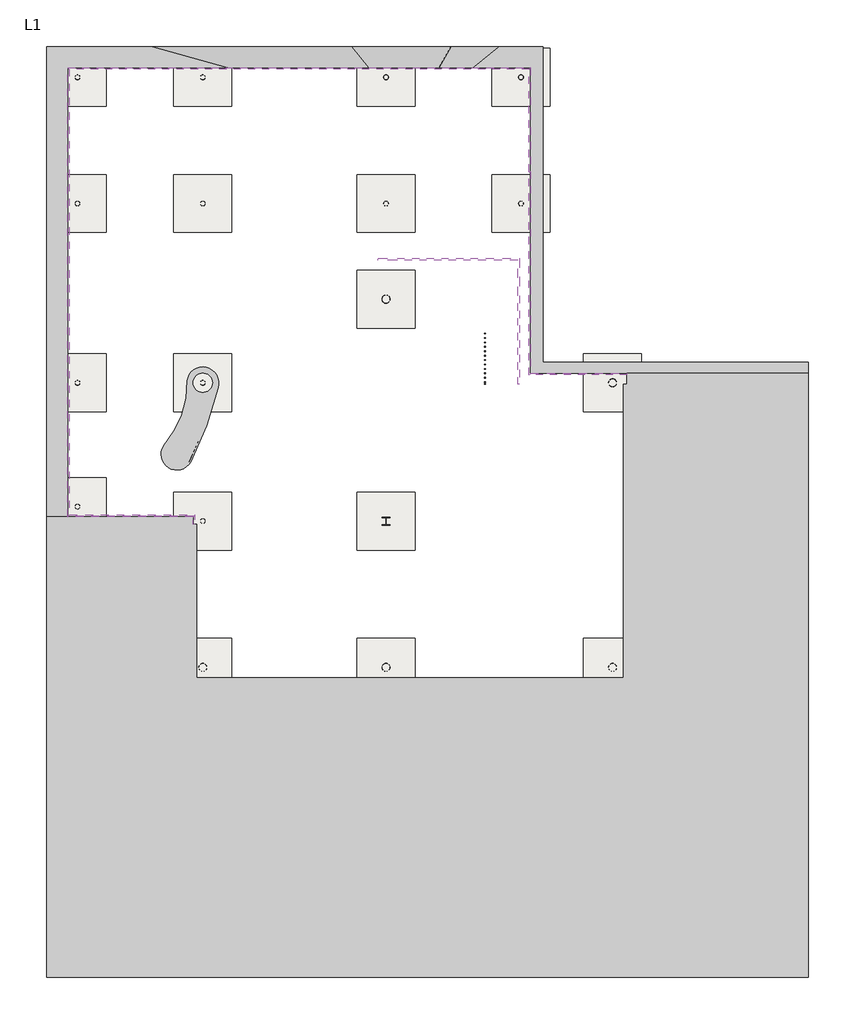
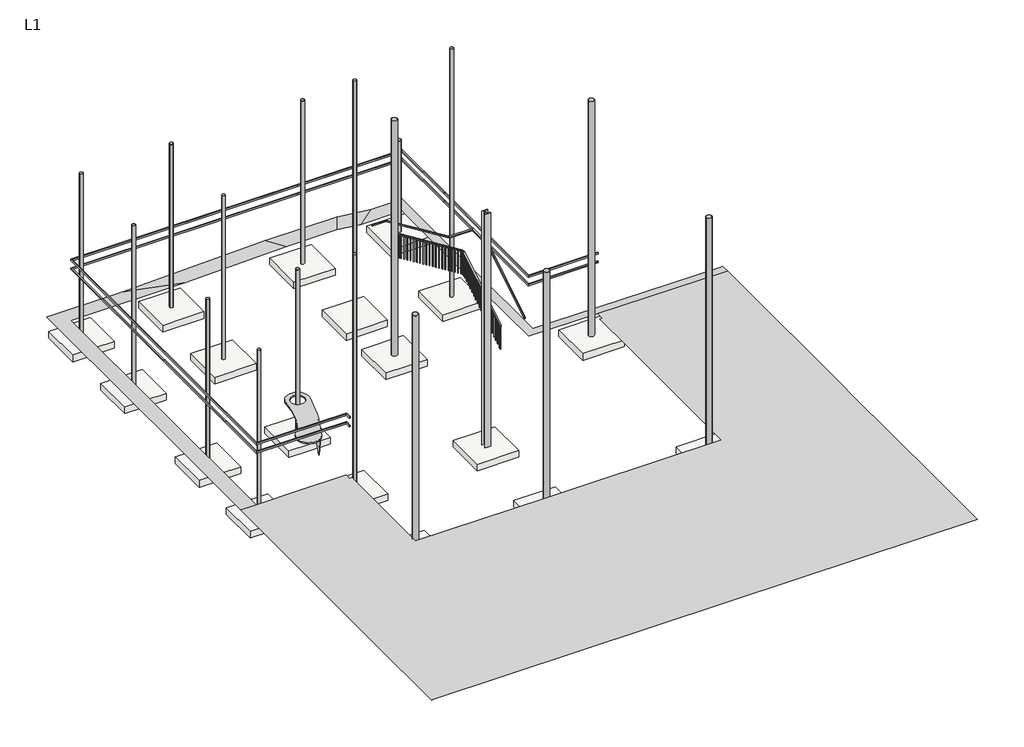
# One storey: 18 columns, 18 proxies, 18 slabs, 2 railings, 1 furniture element.
"""IFC4 building model written with IfcOpenShell, lengths in millimetres."""

from ifc_helpers import new_model, si_unit, frame, origin, place, context, project, spatial, polyline, outline, extrude, triangles, transform, mapped, element, save
from components import hss_round_hollow_structural_section_column_hss10x0_375_e5a783f9, hss_round_hollow_structural_section_column_hss6x0_375_dd265ae1, hss_round_hollow_structural_section_column_hss6x0_375_0e3342be, hss_round_hollow_structural_section_column_hss6x0_375_fb263522, hss_round_hollow_structural_section_column_hss6x0_375_acaf1047, w_wide_flange_column_w10x49_891e5d90, reception_desk_reception_desk_f4f50ac8, railing_1100mm_f1d3f54a, railing_1100mm_wall_hosted_fa47f578, footing_rectangular_cf6_0_e8c3e57f

model = new_model("IFC4")

# Units and contexts
model_context = context("Model", 3, world=origin())
ifc_project = project(units=[si_unit("LENGTHUNIT", "METRE", prefix="MILLI")], contexts=[model_context])

# Site, building, storey
site = spatial("IfcSite", under=ifc_project)
building = spatial("IfcBuilding", under=site)
storey = spatial("IfcBuildingStorey", under=building, Name="L1", Elevation=45720.0)

# Proxies
placement = place(None, origin())
element("IfcBuildingElementProxy", 1, Name="Building Element Proxy", at=placement, inside=storey, context=model_context, shape_type="Tessellation", body=[
    triangles([(-14938.2288849, -3075.3747826, 45769.6388306), (-14264.2316528, -3075.3747826, 45772.2107666), (-14264.2316528, -1088.5216393, 45778.68479), (-14264.2316528, 2184.8701263, 45787.4563477), (-14264.2316528, 4251.2335327, 45789.9538696), (-14264.2316528, 11107.3499268, 45774.0618164), (-9208.7803482, 11107.3499268, 45770.8015503), (-4742.1724617, 11107.3499268, 45897.1612793), (-2525.7676323, 11107.3499268, 45901.3656738), (-1455.9032845, 11107.3499268, 45774.2338989), (366.1687105, 11107.3499268, 45771.5596436), (366.1687105, 10915.3581573, 45770.8015503), (366.1687105, 8743.3482925, 45756.3838257), (366.1687105, 4976.9898148, 45776.9360596), (366.1687105, 3074.1085808, 45782.2008545), (366.1687105, 1461.1977287, 45780.1312134), (366.1687105, 1450.7640633, 45780.0847046), (377.9066568, 1450.7640633, 45780.070752), (3414.1686378, 1450.7640633, 45768.5226196), (4502.3618088, 1450.7640633, 45764.3833374), (9140.9711151, 1450.7640633, 45739.3616089), (9140.9711151, 1803.1890633, 45738.3849243), (3604.4020844, 1803.1890633, 45768.2528687), (758.9712605, 1803.1890633, 45779.0754639), (758.9712605, 2919.9441536, 45780.5125854), (758.9712605, 5052.8747177, 45774.6059692), (758.9712605, 8665.1617859, 45754.8955444), (758.9712605, 11061.46203, 45770.8015503), (758.9712605, 11773.3104401, 45773.6106812), (-634.5518927, 11773.3104401, 45775.6570679), (-2147.8218063, 11773.3104401, 45955.4833008), (-5282.8159149, 11773.3104401, 45949.5301758), (-11600.6105164, 11773.3104401, 45770.8015503), (-14938.2288849, 11773.3104401, 45772.9549072), (-14938.2288849, 5032.5556091, 45788.5772095), (-14938.2288849, 2511.0714363, 45785.5262329), (-14938.2288849, -1483.2915836, 45774.8292114)], [[37, 1, 2], [35, 36, 5], [37, 3, 36], [4, 36, 3], [7, 33, 6], [5, 36, 4], [3, 37, 2], [5, 6, 35], [33, 34, 6], [7, 32, 33], [6, 34, 35], [8, 9, 31], [31, 32, 8], [31, 9, 10], [10, 30, 31], [8, 32, 7], [17, 18, 16], [16, 24, 15], [24, 16, 18], [18, 19, 24], [20, 21, 22], [20, 23, 19], [23, 20, 22], [19, 23, 24], [13, 14, 27], [30, 10, 11], [12, 13, 27], [11, 12, 28], [14, 15, 26], [25, 26, 15], [29, 11, 28], [12, 27, 28], [14, 26, 27], [15, 24, 25], [11, 29, 30]], closed=False),
])
element("IfcBuildingElementProxy", 2, Name="Building Element Proxy", at=placement, inside=storey, context=model_context, shape_type="Tessellation", body=[
    triangles([(-14938.2288849, -17638.8082306, 45732.6782959), (-14928.8248077, -17638.8082306, 45732.7015503), (1262.9813393, -17638.8082306, 45732.7015503), (9140.9711151, -17638.8082306, 45727.6692993), (9140.9711151, -14295.842514, 45732.7015503), (9140.9711151, -8053.5514435, 45732.7015503), (9140.9711151, -7307.9707901, 45732.7015503), (9140.9711151, -6338.6264694, 45736.7292114), (9140.9711151, -369.7655477, 45744.4031616), (9140.9711151, 1450.7640633, 45739.3616089), (4502.3618088, 1450.7640633, 45764.3833374), (3414.1686378, 1450.7640633, 45768.5226196), (3414.1686378, 1100.7639879, 45768.0714844), (3301.4563316, 1100.7639879, 45768.5040161), (3301.4563316, -1147.9467184, 45765.6111694), (3301.4563316, -8172.8371857, 45736.4176025), (-2489.5785622, -8172.8371857, 45743.6683228), (-4408.8669342, -8172.8371857, 45747.1471802), (-10189.1187653, -8172.8371857, 45752.5747559), (-10189.1187653, -3321.4373795, 45775.8942627), (-10301.8316528, -3321.4373795, 45776.0012329), (-10301.8316528, -3075.3747826, 45777.1825562), (-12435.5397858, -3075.3747826, 45779.187085), (-14264.2316528, -3075.3747826, 45772.2107666), (-14938.2288849, -3075.3747826, 45769.6388306), (-14938.2288849, -10756.0423004, 45744.6124512), (-14938.2288849, -13234.14104, 45732.7015503), (-14938.2288849, -17593.1110199, 45732.7015503), (-2407.4488369, -10787.3020203, 45732.7015503)], [[19, 27, 29], [2, 28, 1], [26, 27, 19], [27, 28, 29], [29, 17, 18], [29, 28, 2], [29, 18, 19], [25, 26, 24], [23, 24, 19], [21, 19, 20], [19, 21, 23], [21, 22, 23], [26, 19, 24], [29, 3, 16], [3, 29, 2], [16, 3, 5], [4, 5, 3], [6, 7, 16], [5, 6, 16], [16, 7, 8], [14, 15, 13], [12, 13, 11], [15, 11, 13], [9, 11, 15], [10, 11, 9], [9, 15, 8], [15, 16, 8], [29, 16, 17]], closed=False),
])
element("IfcBuildingElementProxy", 3, Name="Reveals", at=placement, inside=storey, context=model_context, shape_type="SweptSolid", body=[
    extrude(outline(polyline([(-14213.4313072, -3024.5748862), (-14264.2313072, -3075.3748862), (-14264.2313072, 11107.3501138), (-14213.4313072, 11056.5501138), (-14213.4313072, -3024.5748862)])), frame((0.0, 0.0, 48570.0), z_axis=(0.0, 0.0, 1.0), x_axis=(1.0, 0.0, 0.0)), (0.0, 0.0, 1.0), 63.5),
])
element("IfcBuildingElementProxy", 4, Name="Reveals", at=placement, inside=storey, context=model_context, shape_type="SweptSolid", body=[
    extrude(outline(polyline([(-14213.4313072, 11056.5501138), (-14264.2313072, 11107.3501138), (-4286.5563072, 11107.3501138), (-4286.5563072, 11056.5501138), (-14213.4313072, 11056.5501138)])), frame((0.0, 0.0, 48570.0), z_axis=(0.0, 0.0, 1.0), x_axis=(1.0, 0.0, 0.0)), (0.0, 0.0, 1.0), 63.5),
])
element("IfcBuildingElementProxy", 5, Name="Reveals", at=placement, inside=storey, context=model_context, shape_type="SweptSolid", body=[
    extrude(outline(polyline([(315.3686928, 7819.4001138), (366.1686928, 7819.4001138), (366.1686928, 1450.7640027), (315.3686928, 1399.9640027), (315.3686928, 7819.4001138)])), frame((0.0, 0.0, 48570.0), z_axis=(0.0, 0.0, 1.0), x_axis=(1.0, 0.0, 0.0)), (0.0, 0.0, 1.0), 63.5),
])
element("IfcBuildingElementProxy", 6, Name="Reveals", at=placement, inside=storey, context=model_context, shape_type="SweptSolid", body=[
    extrude(outline(polyline([(315.3686928, 1399.9640027), (366.1686928, 1450.7640027), (3414.1686928, 1450.7640027), (3414.1686928, 1399.9640027), (315.3686928, 1399.9640027)])), frame((0.0, 0.0, 48570.0), z_axis=(0.0, 0.0, 1.0), x_axis=(1.0, 0.0, 0.0)), (0.0, 0.0, 1.0), 63.5),
])
element("IfcBuildingElementProxy", 7, Name="Reveals", at=placement, inside=storey, context=model_context, shape_type="SweptSolid", body=[
    extrude(outline(polyline([(-10251.0313072, -3321.4373862), (-10301.8313072, -3321.4373862), (-10301.8313072, -3075.3748862), (-10251.0313072, -3024.5748862), (-10251.0313072, -3321.4373862)])), frame((0.0, 0.0, 48570.0), z_axis=(0.0, 0.0, 1.0), x_axis=(1.0, 0.0, 0.0)), (0.0, 0.0, 1.0), 63.5),
])
element("IfcBuildingElementProxy", 8, Name="Reveals", at=placement, inside=storey, context=model_context, shape_type="SweptSolid", body=[
    extrude(outline(polyline([(-10251.0313072, -3024.5748862), (-10301.8313072, -3075.3748862), (-14264.2313072, -3075.3748862), (-14213.4313072, -3024.5748862), (-10251.0313072, -3024.5748862)])), frame((0.0, 0.0, 48570.0), z_axis=(0.0, 0.0, 1.0), x_axis=(1.0, 0.0, 0.0)), (0.0, 0.0, 1.0), 63.5),
])
element("IfcBuildingElementProxy", 9, Name="Reveals", at=placement, inside=storey, context=model_context, shape_type="SweptSolid", body=[
    extrude(outline(polyline([(-14213.4313072, -3024.5748862), (-14264.2313072, -3075.3748862), (-14264.2313072, 11107.3501138), (-14213.4313072, 11056.5501138), (-14213.4313072, -3024.5748862)])), frame((0.0, 0.0, 48170.0), z_axis=(0.0, 0.0, 1.0), x_axis=(1.0, 0.0, 0.0)), (0.0, 0.0, 1.0), 63.5),
])
element("IfcBuildingElementProxy", 10, Name="Reveals", at=placement, inside=storey, context=model_context, shape_type="SweptSolid", body=[
    extrude(outline(polyline([(-14213.4313072, 11056.5501138), (-14264.2313072, 11107.3501138), (-4286.5563072, 11107.3501138), (-4286.5563072, 11056.5501138), (-14213.4313072, 11056.5501138)])), frame((0.0, 0.0, 48170.0), z_axis=(0.0, 0.0, 1.0), x_axis=(1.0, 0.0, 0.0)), (0.0, 0.0, 1.0), 63.5),
])
element("IfcBuildingElementProxy", 11, Name="Reveals", at=placement, inside=storey, context=model_context, shape_type="SweptSolid", body=[
    extrude(outline(polyline([(315.3686928, 7819.4001138), (366.1686928, 7819.4001138), (366.1686928, 1450.7640027), (315.3686928, 1399.9640027), (315.3686928, 7819.4001138)])), frame((0.0, 0.0, 48170.0), z_axis=(0.0, 0.0, 1.0), x_axis=(1.0, 0.0, 0.0)), (0.0, 0.0, 1.0), 63.5),
])
element("IfcBuildingElementProxy", 12, Name="Reveals", at=placement, inside=storey, context=model_context, shape_type="SweptSolid", body=[
    extrude(outline(polyline([(315.3686928, 1399.9640027), (366.1686928, 1450.7640027), (3414.1686928, 1450.7640027), (3414.1686928, 1399.9640027), (315.3686928, 1399.9640027)])), frame((0.0, 0.0, 48170.0), z_axis=(0.0, 0.0, 1.0), x_axis=(1.0, 0.0, 0.0)), (0.0, 0.0, 1.0), 63.5),
])
element("IfcBuildingElementProxy", 13, Name="Reveals", at=placement, inside=storey, context=model_context, shape_type="SweptSolid", body=[
    extrude(outline(polyline([(-10251.0313072, -3321.4373862), (-10301.8313072, -3321.4373862), (-10301.8313072, -3075.3748862), (-10251.0313072, -3024.5748862), (-10251.0313072, -3321.4373862)])), frame((0.0, 0.0, 48170.0), z_axis=(0.0, 0.0, 1.0), x_axis=(1.0, 0.0, 0.0)), (0.0, 0.0, 1.0), 63.5),
])
element("IfcBuildingElementProxy", 14, Name="Reveals", at=placement, inside=storey, context=model_context, shape_type="SweptSolid", body=[
    extrude(outline(polyline([(-10251.0313072, -3024.5748862), (-10301.8313072, -3075.3748862), (-14264.2313072, -3075.3748862), (-14213.4313072, -3024.5748862), (-10251.0313072, -3024.5748862)])), frame((0.0, 0.0, 48170.0), z_axis=(0.0, 0.0, 1.0), x_axis=(1.0, 0.0, 0.0)), (0.0, 0.0, 1.0), 63.5),
])
element("IfcBuildingElementProxy", 15, Name="Reveals", at=placement, inside=storey, context=model_context, shape_type="SweptSolid", body=[
    extrude(outline(polyline([(-4286.5563072, 11056.5501138), (-4286.5563072, 11107.3501138), (366.1686928, 11107.3501138), (315.3686928, 11056.5501138), (-4286.5563072, 11056.5501138)])), frame((0.0, 0.0, 48570.0), z_axis=(0.0, 0.0, 1.0), x_axis=(1.0, 0.0, 0.0)), (0.0, 0.0, 1.0), 63.5),
])
element("IfcBuildingElementProxy", 16, Name="Reveals", at=placement, inside=storey, context=model_context, shape_type="SweptSolid", body=[
    extrude(outline(polyline([(315.3686928, 11056.5501138), (366.1686928, 11107.3501138), (366.1686928, 7819.4001138), (315.3686928, 7819.4001138), (315.3686928, 11056.5501138)])), frame((0.0, 0.0, 48570.0), z_axis=(0.0, 0.0, 1.0), x_axis=(1.0, 0.0, 0.0)), (0.0, 0.0, 1.0), 63.5),
])
element("IfcBuildingElementProxy", 17, Name="Reveals", at=placement, inside=storey, context=model_context, shape_type="SweptSolid", body=[
    extrude(outline(polyline([(-4286.5563072, 11056.5501138), (-4286.5563072, 11107.3501138), (366.1686928, 11107.3501138), (315.3686928, 11056.5501138), (-4286.5563072, 11056.5501138)])), frame((0.0, 0.0, 48170.0), z_axis=(0.0, 0.0, 1.0), x_axis=(1.0, 0.0, 0.0)), (0.0, 0.0, 1.0), 63.5),
])
element("IfcBuildingElementProxy", 18, Name="Reveals", at=placement, inside=storey, context=model_context, shape_type="SweptSolid", body=[
    extrude(outline(polyline([(315.3686928, 11056.5501138), (366.1686928, 11107.3501138), (366.1686928, 7819.4001138), (315.3686928, 7819.4001138), (315.3686928, 11056.5501138)])), frame((0.0, 0.0, 48170.0), z_axis=(0.0, 0.0, 1.0), x_axis=(1.0, 0.0, 0.0)), (0.0, 0.0, 1.0), 63.5),
])

# Columns
hss_round_hollow_structural_section_column_hss10x0_375_shape = hss_round_hollow_structural_section_column_hss10x0_375_e5a783f9(model_context)
element("IfcColumn", 19, ObjectType="HSS-Round Hollow Structural Section-Column : HSS10X0.375", at=placement, inside=storey, context=model_context, shape_type="MappedRepresentation", body=[
    mapped(hss_round_hollow_structural_section_column_hss10x0_375_shape, transform((-9997.0313072, -7842.5381675, 0.0), x_axis=(-1.0, 0.0, 0.0), y_axis=(0.0, -1.0, 0.0), z_axis=(0.0, 0.0, 1.0))),
])
element("IfcColumn", 20, ObjectType="HSS-Round Hollow Structural Section-Column : HSS10X0.375", at=placement, inside=storey, context=model_context, shape_type="MappedRepresentation", body=[
    mapped(hss_round_hollow_structural_section_column_hss10x0_375_shape, transform((-4205.8313072, 3790.6992317, 0.0), x_axis=(-1.0, 0.0, 0.0), y_axis=(0.0, -1.0, 0.0), z_axis=(0.0, 0.0, 1.0))),
])
element("IfcColumn", 21, ObjectType="HSS-Round Hollow Structural Section-Column : HSS10X0.375", at=placement, inside=storey, context=model_context, shape_type="MappedRepresentation", body=[
    mapped(hss_round_hollow_structural_section_column_hss10x0_375_shape, transform((-4205.8313072, -7842.5381675, 0.0), x_axis=(-1.0, 0.0, 0.0), y_axis=(0.0, -1.0, 0.0), z_axis=(0.0, 0.0, 1.0))),
])
element("IfcColumn", 22, ObjectType="HSS-Round Hollow Structural Section-Column : HSS10X0.375", at=placement, inside=storey, context=model_context, shape_type="MappedRepresentation", body=[
    mapped(hss_round_hollow_structural_section_column_hss10x0_375_shape, transform((2956.9686928, 1149.0992317, 0.0), x_axis=(-1.0, 0.0, 0.0), y_axis=(0.0, -1.0, 0.0), z_axis=(0.0, 0.0, 1.0))),
])
element("IfcColumn", 23, ObjectType="HSS-Round Hollow Structural Section-Column : HSS10X0.375", at=placement, inside=storey, context=model_context, shape_type="MappedRepresentation", body=[
    mapped(hss_round_hollow_structural_section_column_hss10x0_375_shape, transform((2956.9686928, -7842.5381675, 0.0), x_axis=(-1.0, 0.0, 0.0), y_axis=(0.0, -1.0, 0.0), z_axis=(0.0, 0.0, 1.0))),
])
hss_round_hollow_structural_section_column_hss6x0_375_shape = hss_round_hollow_structural_section_column_hss6x0_375_dd265ae1(model_context)
element("IfcColumn", 24, ObjectType="HSS-Round Hollow Structural Section-Column : HSS6X0.375", at=placement, inside=storey, context=model_context, shape_type="MappedRepresentation", body=[
    mapped(hss_round_hollow_structural_section_column_hss6x0_375_shape, transform((-13959.4313072, 10801.0618325, 0.0), x_axis=(-1.0, 0.0, 0.0), y_axis=(0.0, -1.0, 0.0), z_axis=(0.0, 0.0, 1.0))),
])
element("IfcColumn", 25, ObjectType="HSS-Round Hollow Structural Section-Column : HSS6X0.375", at=placement, inside=storey, context=model_context, shape_type="MappedRepresentation", body=[
    mapped(hss_round_hollow_structural_section_column_hss6x0_375_shape, transform((-13959.4313072, 1149.0992317, 0.0), x_axis=(-1.0, 0.0, 0.0), y_axis=(0.0, -1.0, 0.0), z_axis=(0.0, 0.0, 1.0))),
])
element("IfcColumn", 26, ObjectType="HSS-Round Hollow Structural Section-Column : HSS6X0.375", at=placement, inside=storey, context=model_context, shape_type="MappedRepresentation", body=[
    mapped(hss_round_hollow_structural_section_column_hss6x0_375_shape, transform((-13959.4313072, -2762.5381675, 0.0), x_axis=(-1.0, 0.0, 0.0), y_axis=(0.0, -1.0, 0.0), z_axis=(0.0, 0.0, 1.0))),
])
element("IfcColumn", 27, ObjectType="HSS-Round Hollow Structural Section-Column : HSS6X0.375", at=placement, inside=storey, context=model_context, shape_type="MappedRepresentation", body=[
    mapped(hss_round_hollow_structural_section_column_hss6x0_375_shape, transform((-9997.0313072, 10801.0618325, 0.0), x_axis=(-1.0, 0.0, 0.0), y_axis=(0.0, -1.0, 0.0), z_axis=(0.0, 0.0, 1.0))),
])
element("IfcColumn", 28, ObjectType="HSS-Round Hollow Structural Section-Column : HSS6X0.375", at=placement, inside=storey, context=model_context, shape_type="MappedRepresentation", body=[
    mapped(hss_round_hollow_structural_section_column_hss6x0_375_shape, transform((-9997.0313072, 1149.0992317, 0.0), x_axis=(-1.0, 0.0, 0.0), y_axis=(0.0, -1.0, 0.0), z_axis=(0.0, 0.0, 1.0))),
])
element("IfcColumn", 29, ObjectType="HSS-Round Hollow Structural Section-Column : HSS6X0.375", at=placement, inside=storey, context=model_context, shape_type="MappedRepresentation", body=[
    mapped(hss_round_hollow_structural_section_column_hss6x0_375_shape, transform((-4205.8313072, 10801.0618325, 0.0), x_axis=(-1.0, 0.0, 0.0), y_axis=(0.0, -1.0, 0.0), z_axis=(0.0, 0.0, 1.0))),
])
element("IfcColumn", 30, ObjectType="HSS-Round Hollow Structural Section-Column : HSS6X0.375", at=placement, inside=storey, context=model_context, shape_type="MappedRepresentation", body=[
    mapped(hss_round_hollow_structural_section_column_hss6x0_375_shape, transform((-13959.4313072, 6813.2618325, 0.0), x_axis=(-1.0, 0.0, 0.0), y_axis=(0.0, -1.0, 0.0), z_axis=(0.0, 0.0, 1.0))),
])
element("IfcColumn", 31, ObjectType="HSS-Round Hollow Structural Section-Column : HSS6X0.375", at=placement, inside=storey, context=model_context, shape_type="MappedRepresentation", body=[
    mapped(hss_round_hollow_structural_section_column_hss6x0_375_shape, transform((-9997.0313072, 6813.2618325, 0.0), x_axis=(-1.0, 0.0, 0.0), y_axis=(0.0, -1.0, 0.0), z_axis=(0.0, 0.0, 1.0))),
])
hss_round_hollow_structural_section_column_hss6x0_375_2_shape = hss_round_hollow_structural_section_column_hss6x0_375_0e3342be(model_context)
element("IfcColumn", 32, ObjectType="HSS-Round Hollow Structural Section-Column : HSS6X0.375", at=placement, inside=storey, context=model_context, shape_type="MappedRepresentation", body=[
    mapped(hss_round_hollow_structural_section_column_hss6x0_375_2_shape, transform((61.3686928, 10801.0618325, 0.0), x_axis=(-1.0, 0.0, 0.0), y_axis=(0.0, -1.0, 0.0), z_axis=(0.0, 0.0, 1.0))),
])
hss_round_hollow_structural_section_column_hss6x0_375_3_shape = hss_round_hollow_structural_section_column_hss6x0_375_fb263522(model_context)
element("IfcColumn", 33, ObjectType="HSS-Round Hollow Structural Section-Column : HSS6X0.375", at=placement, inside=storey, context=model_context, shape_type="MappedRepresentation", body=[
    mapped(hss_round_hollow_structural_section_column_hss6x0_375_3_shape, transform((-4205.8313072, 6813.2618325, 0.0), x_axis=(-1.0, 0.0, 0.0), y_axis=(0.0, -1.0, 0.0), z_axis=(0.0, 0.0, 1.0))),
])
element("IfcColumn", 34, ObjectType="HSS-Round Hollow Structural Section-Column : HSS6X0.375", at=placement, inside=storey, context=model_context, shape_type="MappedRepresentation", body=[
    mapped(hss_round_hollow_structural_section_column_hss6x0_375_3_shape, transform((-9997.0313072, -3219.7007683, 0.0), x_axis=(-1.0, 0.0, 0.0), y_axis=(0.0, -1.0, 0.0), z_axis=(0.0, 0.0, 1.0))),
])
hss_round_hollow_structural_section_column_hss6x0_375_4_shape = hss_round_hollow_structural_section_column_hss6x0_375_acaf1047(model_context)
element("IfcColumn", 35, ObjectType="HSS-Round Hollow Structural Section-Column : HSS6X0.375", at=placement, inside=storey, context=model_context, shape_type="MappedRepresentation", body=[
    mapped(hss_round_hollow_structural_section_column_hss6x0_375_4_shape, transform((61.3686928, 6813.2618325, 0.0), x_axis=(-1.0, 0.0, 0.0), y_axis=(0.0, -1.0, 0.0), z_axis=(0.0, 0.0, 1.0))),
])
w_wide_flange_column_w10x49_shape = w_wide_flange_column_w10x49_891e5d90(model_context)
element("IfcColumn", 36, ObjectType="W-Wide Flange-Column : W10X49", at=placement, inside=storey, context=model_context, shape_type="MappedRepresentation", body=[
    mapped(w_wide_flange_column_w10x49_shape, transform((-4205.8313072, -3219.7007683, 0.0), x_axis=(-1.0, 0.0, 0.0), y_axis=(0.0, -1.0, 0.0), z_axis=(0.0, 0.0, 1.0))),
])

# Furniture
reception_desk_reception_desk_shape = reception_desk_reception_desk_f4f50ac8(model_context)
element("IfcFurniture", 37, ObjectType="Reception Desk : Reception Desk", at=placement, inside=storey, context=model_context, shape_type="MappedRepresentation", body=[
    mapped(reception_desk_reception_desk_shape, transform((0.0, 0.0, 0.0), x_axis=(1.0, 0.0, 0.0), y_axis=(0.0, 1.0, 0.0), z_axis=(0.0, 0.0, 1.0))),
])

# Railings
railing_1100mm_shape = railing_1100mm_f1d3f54a(model_context)
element("IfcRailing", 38, ObjectType="1100mm", at=placement, inside=storey, context=model_context, shape_type="MappedRepresentation", body=[
    mapped(railing_1100mm_shape, transform((0.0, 0.0, 0.0), x_axis=(1.0, 0.0, 0.0), y_axis=(0.0, 1.0, 0.0), z_axis=(0.0, 0.0, 1.0))),
])
railing_1100mm_wall_hosted_shape = railing_1100mm_wall_hosted_fa47f578(model_context)
element("IfcRailing", 39, ObjectType="1100mm Wall Hosted", at=placement, inside=storey, context=model_context, shape_type="MappedRepresentation", body=[
    mapped(railing_1100mm_wall_hosted_shape, transform((0.0, 0.0, 0.0), x_axis=(1.0, 0.0, 0.0), y_axis=(0.0, 1.0, 0.0), z_axis=(0.0, 0.0, 1.0))),
])

# Slabs
footing_rectangular_cf6_0_shape = footing_rectangular_cf6_0_e8c3e57f(model_context)
element("IfcSlab", 40, ObjectType="Footing-Rectangular : CF6.0", at=placement, inside=storey, context=model_context, shape_type="MappedRepresentation", body=[
    mapped(footing_rectangular_cf6_0_shape, transform((-13959.4313072, 10801.0618325, 45110.4), x_axis=(-1.0, 0.0, 0.0), y_axis=(0.0, -1.0, 0.0), z_axis=(0.0, 0.0, 1.0))),
])
element("IfcSlab", 41, ObjectType="Footing-Rectangular : CF6.0", at=placement, inside=storey, context=model_context, shape_type="MappedRepresentation", body=[
    mapped(footing_rectangular_cf6_0_shape, transform((-13959.4313072, 1149.0992317, 45110.4), x_axis=(-1.0, 0.0, 0.0), y_axis=(0.0, -1.0, 0.0), z_axis=(0.0, 0.0, 1.0))),
])
element("IfcSlab", 42, ObjectType="Footing-Rectangular : CF6.0", at=placement, inside=storey, context=model_context, shape_type="MappedRepresentation", body=[
    mapped(footing_rectangular_cf6_0_shape, transform((-13959.4313072, -2762.5381675, 45110.4), x_axis=(-1.0, 0.0, 0.0), y_axis=(0.0, -1.0, 0.0), z_axis=(0.0, 0.0, 1.0))),
])
element("IfcSlab", 43, ObjectType="Footing-Rectangular : CF6.0", at=placement, inside=storey, context=model_context, shape_type="MappedRepresentation", body=[
    mapped(footing_rectangular_cf6_0_shape, transform((-9997.0313072, 10801.0618325, 45110.4), x_axis=(-1.0, 0.0, 0.0), y_axis=(0.0, -1.0, 0.0), z_axis=(0.0, 0.0, 1.0))),
])
element("IfcSlab", 44, ObjectType="Footing-Rectangular : CF6.0", at=placement, inside=storey, context=model_context, shape_type="MappedRepresentation", body=[
    mapped(footing_rectangular_cf6_0_shape, transform((-9997.0313072, 1149.0992317, 45110.4), x_axis=(-1.0, 0.0, 0.0), y_axis=(0.0, -1.0, 0.0), z_axis=(0.0, 0.0, 1.0))),
])
element("IfcSlab", 45, ObjectType="Footing-Rectangular : CF6.0", at=placement, inside=storey, context=model_context, shape_type="MappedRepresentation", body=[
    mapped(footing_rectangular_cf6_0_shape, transform((-9997.0313072, -7842.5381675, 45110.4), x_axis=(-1.0, 0.0, 0.0), y_axis=(0.0, -1.0, 0.0), z_axis=(0.0, 0.0, 1.0))),
])
element("IfcSlab", 46, ObjectType="Footing-Rectangular : CF6.0", at=placement, inside=storey, context=model_context, shape_type="MappedRepresentation", body=[
    mapped(footing_rectangular_cf6_0_shape, transform((-4205.8313072, 10801.0618325, 45110.4), x_axis=(-1.0, 0.0, 0.0), y_axis=(0.0, -1.0, 0.0), z_axis=(0.0, 0.0, 1.0))),
])
element("IfcSlab", 47, ObjectType="Footing-Rectangular : CF6.0", at=placement, inside=storey, context=model_context, shape_type="MappedRepresentation", body=[
    mapped(footing_rectangular_cf6_0_shape, transform((-4205.8313072, 3790.6992317, 45110.4), x_axis=(-1.0, 0.0, 0.0), y_axis=(0.0, -1.0, 0.0), z_axis=(0.0, 0.0, 1.0))),
])
element("IfcSlab", 48, ObjectType="Footing-Rectangular : CF6.0", at=placement, inside=storey, context=model_context, shape_type="MappedRepresentation", body=[
    mapped(footing_rectangular_cf6_0_shape, transform((-4205.8313072, -7842.5381675, 45110.4), x_axis=(-1.0, 0.0, 0.0), y_axis=(0.0, -1.0, 0.0), z_axis=(0.0, 0.0, 1.0))),
])
element("IfcSlab", 49, ObjectType="Footing-Rectangular : CF6.0", at=placement, inside=storey, context=model_context, shape_type="MappedRepresentation", body=[
    mapped(footing_rectangular_cf6_0_shape, transform((61.3686928, 10801.0618325, 45110.4), x_axis=(-1.0, 0.0, 0.0), y_axis=(0.0, -1.0, 0.0), z_axis=(0.0, 0.0, 1.0))),
])
element("IfcSlab", 50, ObjectType="Footing-Rectangular : CF6.0", at=placement, inside=storey, context=model_context, shape_type="MappedRepresentation", body=[
    mapped(footing_rectangular_cf6_0_shape, transform((2956.9686928, 1149.0992317, 45110.4), x_axis=(-1.0, 0.0, 0.0), y_axis=(0.0, -1.0, 0.0), z_axis=(0.0, 0.0, 1.0))),
])
element("IfcSlab", 51, ObjectType="Footing-Rectangular : CF6.0", at=placement, inside=storey, context=model_context, shape_type="MappedRepresentation", body=[
    mapped(footing_rectangular_cf6_0_shape, transform((2956.9686928, -7842.5381675, 45110.4), x_axis=(-1.0, 0.0, 0.0), y_axis=(0.0, -1.0, 0.0), z_axis=(0.0, 0.0, 1.0))),
])
element("IfcSlab", 52, ObjectType="Footing-Rectangular : CF6.0", at=placement, inside=storey, context=model_context, shape_type="MappedRepresentation", body=[
    mapped(footing_rectangular_cf6_0_shape, transform((-13959.4313072, 6813.2618325, 45110.4), x_axis=(-1.0, 0.0, 0.0), y_axis=(0.0, -1.0, 0.0), z_axis=(0.0, 0.0, 1.0))),
])
element("IfcSlab", 53, ObjectType="Footing-Rectangular : CF6.0", at=placement, inside=storey, context=model_context, shape_type="MappedRepresentation", body=[
    mapped(footing_rectangular_cf6_0_shape, transform((-9997.0313072, 6813.2618325, 45110.4), x_axis=(-1.0, 0.0, 0.0), y_axis=(0.0, -1.0, 0.0), z_axis=(0.0, 0.0, 1.0))),
])
element("IfcSlab", 54, ObjectType="Footing-Rectangular : CF6.0", at=placement, inside=storey, context=model_context, shape_type="MappedRepresentation", body=[
    mapped(footing_rectangular_cf6_0_shape, transform((-4205.8313072, 6813.2618325, 45110.4), x_axis=(-1.0, 0.0, 0.0), y_axis=(0.0, -1.0, 0.0), z_axis=(0.0, 0.0, 1.0))),
])
element("IfcSlab", 55, ObjectType="Footing-Rectangular : CF6.0", at=placement, inside=storey, context=model_context, shape_type="MappedRepresentation", body=[
    mapped(footing_rectangular_cf6_0_shape, transform((61.3686928, 6813.2618325, 44500.8), x_axis=(-1.0, 0.0, 0.0), y_axis=(0.0, -1.0, 0.0), z_axis=(0.0, 0.0, 1.0))),
])
element("IfcSlab", 56, ObjectType="Footing-Rectangular : CF6.0", at=placement, inside=storey, context=model_context, shape_type="MappedRepresentation", body=[
    mapped(footing_rectangular_cf6_0_shape, transform((-9997.0313072, -3219.7007683, 45110.4), x_axis=(-1.0, 0.0, 0.0), y_axis=(0.0, -1.0, 0.0), z_axis=(0.0, 0.0, 1.0))),
])
element("IfcSlab", 57, ObjectType="Footing-Rectangular : CF6.0", at=placement, inside=storey, context=model_context, shape_type="MappedRepresentation", body=[
    mapped(footing_rectangular_cf6_0_shape, transform((-4205.8313072, -3219.7007683, 45110.4), x_axis=(-1.0, 0.0, 0.0), y_axis=(0.0, -1.0, 0.0), z_axis=(0.0, 0.0, 1.0))),
])

save(model, "model.ifc")
